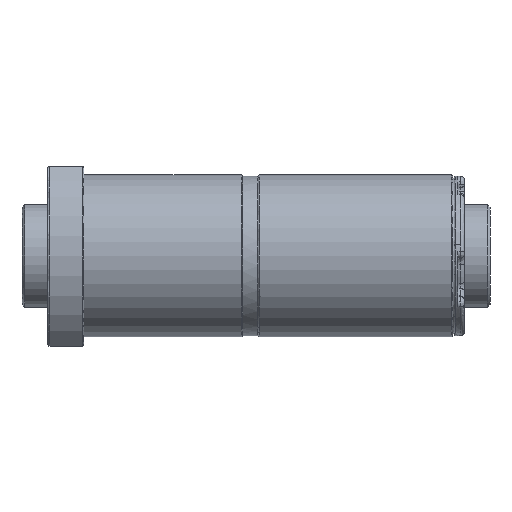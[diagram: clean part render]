
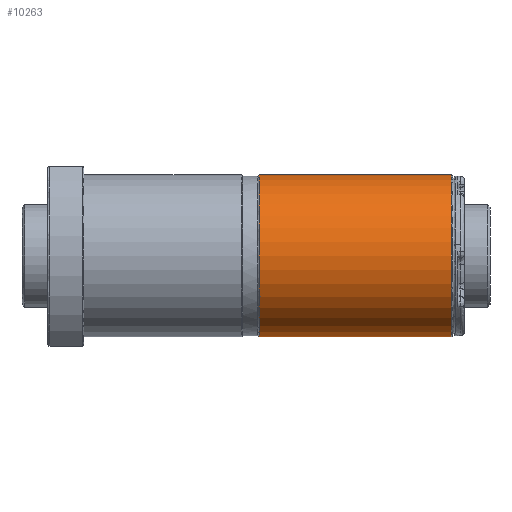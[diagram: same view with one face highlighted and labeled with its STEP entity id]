
A CAD part, front view. The second image highlights one B-rep face of the part: STEP entity #10263.
In plain terms, the highlighted cylindrical face has radius 31.5 mm (diameter 63 mm), a partial arc.
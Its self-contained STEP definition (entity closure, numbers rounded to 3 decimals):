
#23 = DIRECTION ( 'NONE',  ( 1., 0., 0. ) ) ;
#1814 = AXIS2_PLACEMENT_3D ( 'NONE', #15537, #23, #4867 ) ;
#2242 = DIRECTION ( 'NONE',  ( 0., 0., 1. ) ) ;
#2512 = CARTESIAN_POINT ( 'NONE',  ( 157.5, 0., -31.5 ) ) ;
#3987 = CARTESIAN_POINT ( 'NONE',  ( 157., 0., -31.5 ) ) ;
#4867 = DIRECTION ( 'NONE',  ( 0., 0., 1. ) ) ;
#4949 = VECTOR ( 'NONE', #7880, 1000. ) ;
#5292 = ORIENTED_EDGE ( 'NONE', *, *, #9432, .F. ) ;
#5696 = LINE ( 'NONE', #9034, #4949 ) ;
#6087 = EDGE_CURVE ( 'NONE', #10932, #11106, #5696, .T. ) ;
#6448 = CARTESIAN_POINT ( 'NONE',  ( 82.25, 0., 31.5 ) ) ;
#6763 = VECTOR ( 'NONE', #7344, 1000. ) ;
#6841 = DIRECTION ( 'NONE',  ( -1., 0., 0. ) ) ;
#7344 = DIRECTION ( 'NONE',  ( -1., 0., 0. ) ) ;
#7435 = ORIENTED_EDGE ( 'NONE', *, *, #8362, .T. ) ;
#7502 = FACE_OUTER_BOUND ( 'NONE', #8631, .T. ) ;
#7590 = ORIENTED_EDGE ( 'NONE', *, *, #10810, .T. ) ;
#7880 = DIRECTION ( 'NONE',  ( -1., 0., 0. ) ) ;
#8000 = AXIS2_PLACEMENT_3D ( 'NONE', #13030, #6841, #9433 ) ;
#8362 = EDGE_CURVE ( 'NONE', #11106, #11607, #14137, .T. ) ;
#8631 = EDGE_LOOP ( 'NONE', ( #5292, #7590, #13357, #7435 ) ) ;
#8641 = CYLINDRICAL_SURFACE ( 'NONE', #8000, 31.5 ) ;
#9034 = CARTESIAN_POINT ( 'NONE',  ( 157.5, 0., 31.5 ) ) ;
#9432 = EDGE_CURVE ( 'NONE', #13086, #11607, #11677, .T. ) ;
#9433 = DIRECTION ( 'NONE',  ( 0., 0., 1. ) ) ;
#9665 = CARTESIAN_POINT ( 'NONE',  ( 157., 0., 0. ) ) ;
#9719 = CARTESIAN_POINT ( 'NONE',  ( 157., 0., 31.5 ) ) ;
#10263 = ADVANCED_FACE ( 'NONE', ( #7502 ), #8641, .T. ) ;
#10810 = EDGE_CURVE ( 'NONE', #13086, #10932, #12587, .T. ) ;
#10932 = VERTEX_POINT ( 'NONE', #9719 ) ;
#11106 = VERTEX_POINT ( 'NONE', #6448 ) ;
#11607 = VERTEX_POINT ( 'NONE', #13209 ) ;
#11677 = LINE ( 'NONE', #2512, #6763 ) ;
#12032 = DIRECTION ( 'NONE',  ( -1., 0., 0. ) ) ;
#12587 = CIRCLE ( 'NONE', #13966, 31.5 ) ;
#13030 = CARTESIAN_POINT ( 'NONE',  ( 157.5, 0., 0. ) ) ;
#13086 = VERTEX_POINT ( 'NONE', #3987 ) ;
#13209 = CARTESIAN_POINT ( 'NONE',  ( 82.25, 0., -31.5 ) ) ;
#13357 = ORIENTED_EDGE ( 'NONE', *, *, #6087, .T. ) ;
#13966 = AXIS2_PLACEMENT_3D ( 'NONE', #9665, #12032, #2242 ) ;
#14137 = CIRCLE ( 'NONE', #1814, 31.5 ) ;
#15537 = CARTESIAN_POINT ( 'NONE',  ( 82.25, 0., 0. ) ) ;
